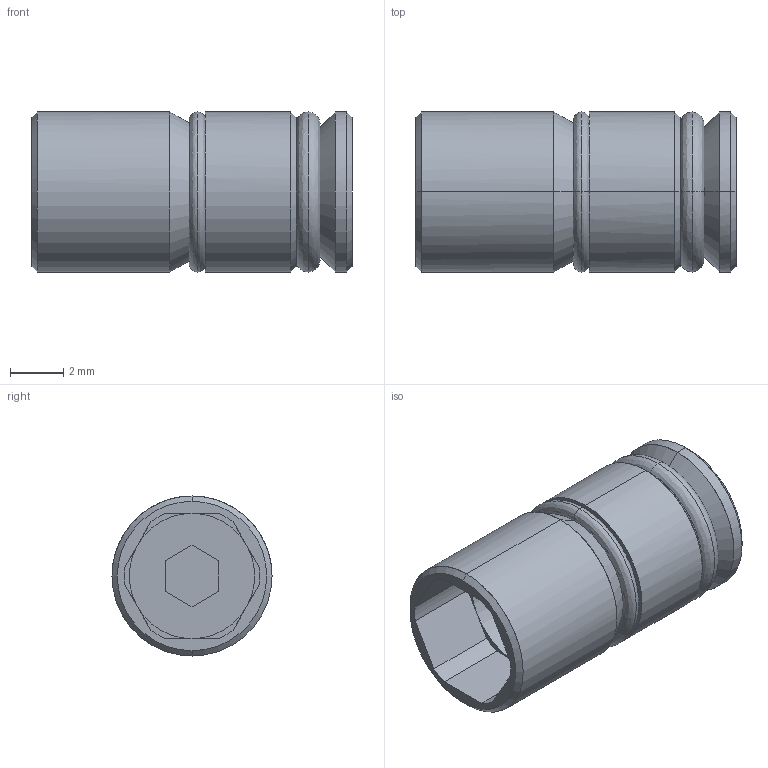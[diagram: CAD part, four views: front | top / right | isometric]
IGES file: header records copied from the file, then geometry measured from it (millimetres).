
Start section: START RECORD GO HERE.
Global section: file name: TRI-6L.igs; native system: DASSAULT SYSTEMES CATIA V5 R20 - www.3ds.com; preprocessor: CATIA Version 5 Release 20 ; author: Utente; organization: NB04-ASUS; date: 20210222.201326; units: millimetre
Bounding box: 12 x 6 x 6 mm (x, y, z)
Surface area: 413.9 mm2 (no closed solid volume)
Topology: 0 solids, 0 shells, 56 faces, 304 edges, 304 vertices
Faces by surface type: revolution 32, plane 24
